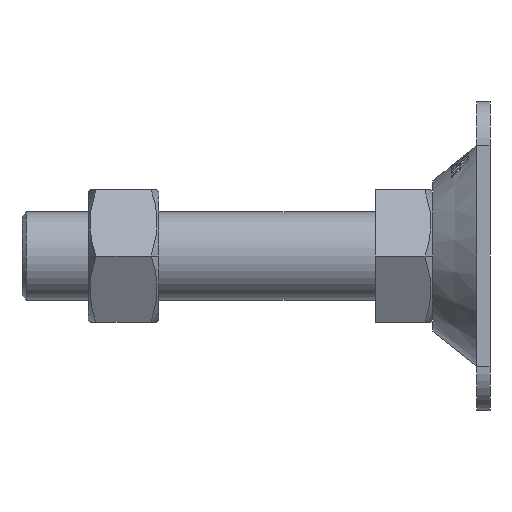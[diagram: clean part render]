
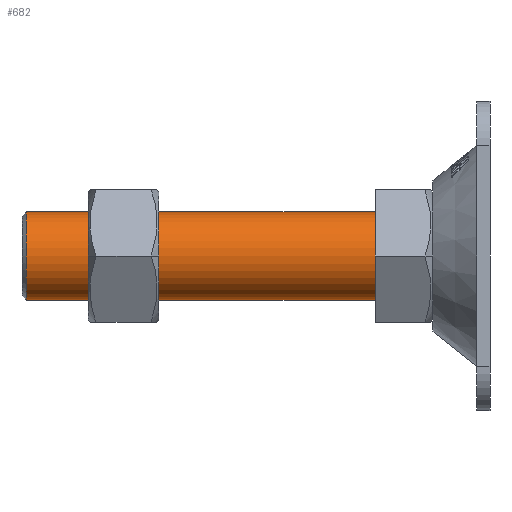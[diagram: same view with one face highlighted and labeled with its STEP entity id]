
A CAD part, left-side view. The second image highlights one B-rep face of the part: STEP entity #682.
In plain terms, the highlighted cylindrical face has radius 10 mm (diameter 20 mm), a partial arc.
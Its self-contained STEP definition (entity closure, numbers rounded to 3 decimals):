
#250 = VECTOR ( 'NONE', #2032, 1000. ) ;
#338 = FACE_OUTER_BOUND ( 'NONE', #5500, .T. ) ;
#682 = ADVANCED_FACE ( 'NONE', ( #338 ), #5985, .T. ) ;
#709 = LINE ( 'NONE', #2929, #250 ) ;
#832 = CARTESIAN_POINT ( 'NONE',  ( 0., 11., 0. ) ) ;
#837 = CIRCLE ( 'NONE', #4969, 10. ) ;
#996 = CARTESIAN_POINT ( 'NONE',  ( 0., 92., 10. ) ) ;
#1013 = DIRECTION ( 'NONE',  ( 0., -1., 0. ) ) ;
#1118 = VECTOR ( 'NONE', #1390, 1000. ) ;
#1294 = CARTESIAN_POINT ( 'NONE',  ( 0., 92., -10. ) ) ;
#1390 = DIRECTION ( 'NONE',  ( 0., -1., 0. ) ) ;
#1493 = ORIENTED_EDGE ( 'NONE', *, *, #3260, .T. ) ;
#1590 = ORIENTED_EDGE ( 'NONE', *, *, #3928, .T. ) ;
#1975 = VERTEX_POINT ( 'NONE', #5442 ) ;
#2032 = DIRECTION ( 'NONE',  ( 0., -1., 0. ) ) ;
#2039 = DIRECTION ( 'NONE',  ( 0., 0., -1. ) ) ;
#2214 = AXIS2_PLACEMENT_3D ( 'NONE', #832, #4853, #2039 ) ;
#2393 = DIRECTION ( 'NONE',  ( 0., 0., -1. ) ) ;
#2445 = EDGE_CURVE ( 'NONE', #3295, #5843, #5572, .T. ) ;
#2683 = AXIS2_PLACEMENT_3D ( 'NONE', #3220, #3275, #4699 ) ;
#2835 = CARTESIAN_POINT ( 'NONE',  ( 0., 92., 0. ) ) ;
#2929 = CARTESIAN_POINT ( 'NONE',  ( 0., 11., -10. ) ) ;
#2998 = CIRCLE ( 'NONE', #2683, 10. ) ;
#3220 = CARTESIAN_POINT ( 'NONE',  ( 0., 13., 0. ) ) ;
#3260 = EDGE_CURVE ( 'NONE', #1975, #5843, #2998, .T. ) ;
#3275 = DIRECTION ( 'NONE',  ( 0., 1., 0. ) ) ;
#3295 = VERTEX_POINT ( 'NONE', #996 ) ;
#3680 = ORIENTED_EDGE ( 'NONE', *, *, #2445, .F. ) ;
#3718 = EDGE_CURVE ( 'NONE', #3295, #4754, #837, .T. ) ;
#3928 = EDGE_CURVE ( 'NONE', #4754, #1975, #709, .T. ) ;
#4699 = DIRECTION ( 'NONE',  ( 0., 0., 1. ) ) ;
#4737 = CARTESIAN_POINT ( 'NONE',  ( 0., 13., 10. ) ) ;
#4754 = VERTEX_POINT ( 'NONE', #1294 ) ;
#4853 = DIRECTION ( 'NONE',  ( 0., -1., 0. ) ) ;
#4969 = AXIS2_PLACEMENT_3D ( 'NONE', #2835, #1013, #2393 ) ;
#5325 = ORIENTED_EDGE ( 'NONE', *, *, #3718, .T. ) ;
#5442 = CARTESIAN_POINT ( 'NONE',  ( 0., 13., -10. ) ) ;
#5500 = EDGE_LOOP ( 'NONE', ( #3680, #5325, #1590, #1493 ) ) ;
#5542 = CARTESIAN_POINT ( 'NONE',  ( 0., 11., 10. ) ) ;
#5572 = LINE ( 'NONE', #5542, #1118 ) ;
#5843 = VERTEX_POINT ( 'NONE', #4737 ) ;
#5985 = CYLINDRICAL_SURFACE ( 'NONE', #2214, 10. ) ;
